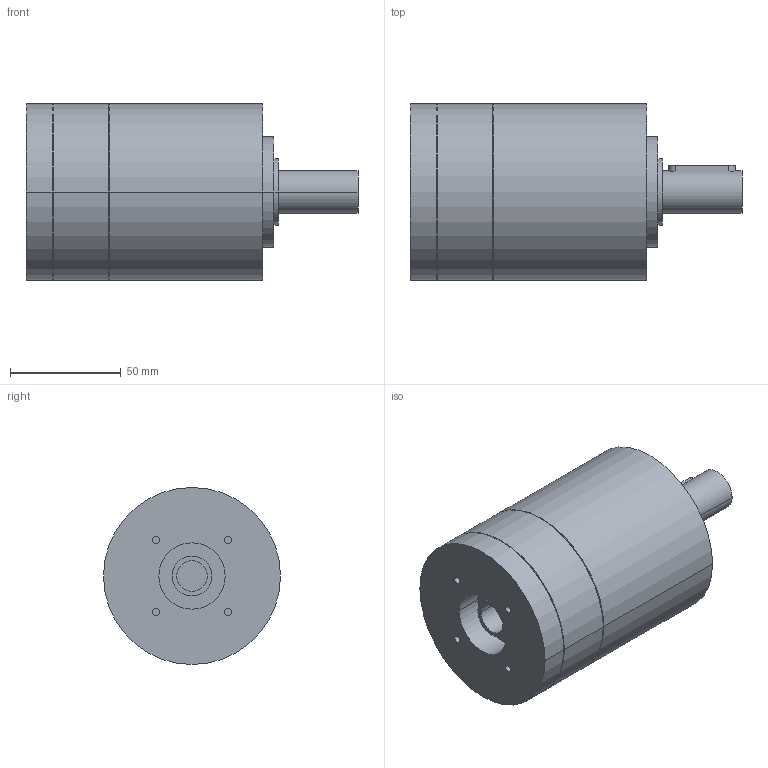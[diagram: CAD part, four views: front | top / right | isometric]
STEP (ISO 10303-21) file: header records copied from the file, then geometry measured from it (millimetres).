
FILE_DESCRIPTION(('CoCreate Modeling STEP Export'),'2;1');
FILE_NAME('GPR100_ig-3-4-5-6_19_B14_14_P24.stp','2014-08-26T10:07:22',(''),(''),'CoCreate Modeling STEP processor for AP214 (Solid Model)','CoCreate Modeling 16.00C 25-Feb-2009 (C) Parametric Technology GmbH','');
FILE_SCHEMA(('AUTOMOTIVE_DESIGN { 1 0 10303 214 1 1 1 1 }'));
Length unit declared in the file: millimetre
Products named in the file (2): GPR100_ig-3-4-5-6_19_B14_14_P24
Assembly tree (1 placements, depth 2):
  GPR100_ig-3-4-5-6_19_B14_14_P24
    GPR100_ig-3-4-5-6_19_B14_14_P24
Bounding box: 150 x 80 x 80 mm (x, y, z)
Volume: 545831.4 mm3; surface area: 45239.1 mm2
Topology: 1 solids, 1 shells, 65 faces, 161 edges, 113 vertices
Faces by surface type: cylinder 38, plane 21, cone 6
Entity records: 1651 total; most frequent: ORIENTED_EDGE 318, CARTESIAN_POINT 309, DIRECTION 214, EDGE_CURVE 159, VERTEX_POINT 113, AXIS2_PLACEMENT_3D 82, EDGE_LOOP 82, FACE_OUTER_BOUND 65
